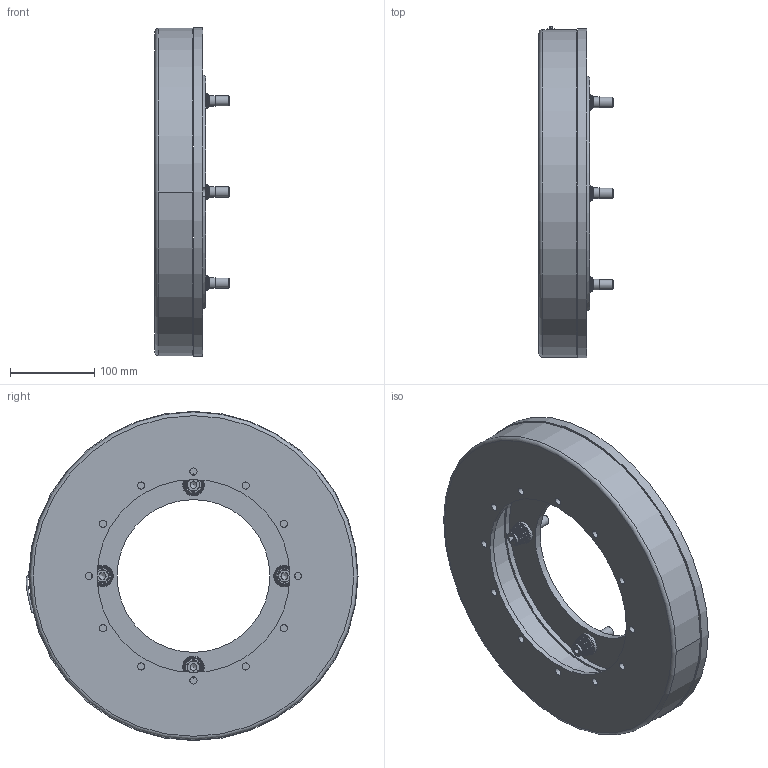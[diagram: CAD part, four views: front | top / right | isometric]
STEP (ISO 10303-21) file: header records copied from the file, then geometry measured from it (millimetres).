
FILE_DESCRIPTION(/* description */ (''),/* implementation_level */ '2;1');
FILE_NAME(/* name */ 'X:\INVENTOR\DISEGNI\08_Freni_Friz_Elettmag_Monodisco\08_04 EMF\08_04_390_01 EMF390\08_04_390_01 EMF390@STEP.stp',/* time_stamp */ '2018-07-26T10:07:20+02:00',/* author */ ('stefano'),/* organization */ (''),/* preprocessor_version */ 'ST-DEVELOPER v17',/* originating_system */ 'Autodesk Inventor 2018',/* authorisation */ '');
FILE_SCHEMA (('AUTOMOTIVE_DESIGN { 1 0 10303 214 3 1 1 }'));
Length unit declared in the file: millimetre
Products named in the file (1): 08_04_390_01 EMF390_Substitute_1
Bounding box: 87.7 x 393.44 x 390 mm (x, y, z)
Volume: 3781666.8 mm3; surface area: 475589.5 mm2
Topology: 2 solids, 2 shells, 302 faces, 872 edges, 604 vertices
Faces by surface type: plane 154, cylinder 108, cone 23, bspline 15, torus 2
Full cylindrical faces by diameter (mm): 1.7 x8, 2 x8, 3.242 x1, 4 x1, 8.1 x4, 8.5 x12, 11 x13, 12 x4, 12.5 x4, 12.7 x4, 14.3 x4, 15 x12, 26 x8, 181 x1, 228.6 x1, 268 x1, 270 x1, 390 x1
Entity records: 18738 total; most frequent: CARTESIAN_POINT 10172, DIRECTION 1806, ORIENTED_EDGE 1736, EDGE_CURVE 868, AXIS2_PLACEMENT_3D 738, VERTEX_POINT 604, CIRCLE 450, EDGE_LOOP 434
